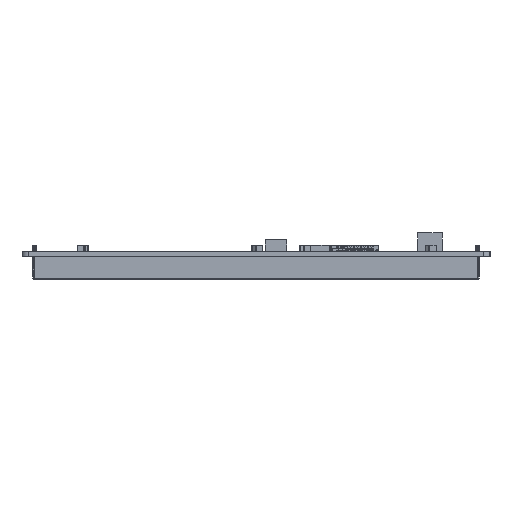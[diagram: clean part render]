
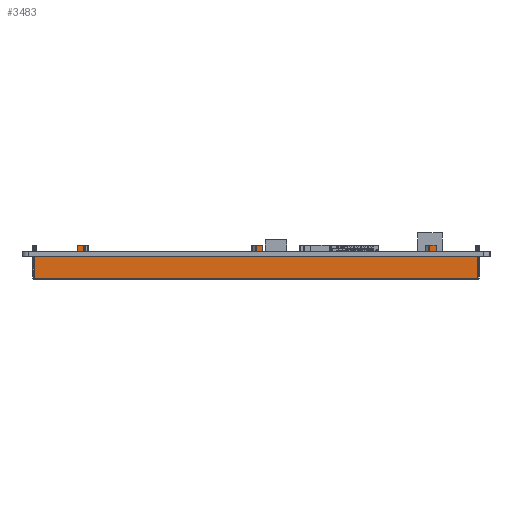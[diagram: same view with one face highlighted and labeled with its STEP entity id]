
A CAD part, left-side view. The second image highlights one B-rep face of the part: STEP entity #3483.
In plain terms, the highlighted planar face has unit normal (-1, 0, 0).
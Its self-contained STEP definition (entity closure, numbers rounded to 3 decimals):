
#3483=ADVANCED_FACE('',(#5807),#4556,.F.);
#4556=PLANE('',#29141);
#5807=FACE_OUTER_BOUND('',#7209,.T.);
#7209=EDGE_LOOP('',(#13688,#13689,#13690,#13691,#13692,#13693,#13694,#13695,
#13696,#13697,#13698,#13699,#13700,#13701,#13702,#13703,#13704,#13705,#13706,
#13707,#13708,#13709));
#13688=ORIENTED_EDGE('',*,*,#20617,.F.);
#13689=ORIENTED_EDGE('',*,*,#20618,.T.);
#13690=ORIENTED_EDGE('',*,*,#20619,.T.);
#13691=ORIENTED_EDGE('',*,*,#20614,.T.);
#13692=ORIENTED_EDGE('',*,*,#20620,.F.);
#13693=ORIENTED_EDGE('',*,*,#20621,.F.);
#13694=ORIENTED_EDGE('',*,*,#20622,.T.);
#13695=ORIENTED_EDGE('',*,*,#20623,.T.);
#13696=ORIENTED_EDGE('',*,*,#20624,.T.);
#13697=ORIENTED_EDGE('',*,*,#20610,.T.);
#13698=ORIENTED_EDGE('',*,*,#20625,.F.);
#13699=ORIENTED_EDGE('',*,*,#20626,.F.);
#13700=ORIENTED_EDGE('',*,*,#20627,.T.);
#13701=ORIENTED_EDGE('',*,*,#20628,.T.);
#13702=ORIENTED_EDGE('',*,*,#20629,.T.);
#13703=ORIENTED_EDGE('',*,*,#20606,.T.);
#13704=ORIENTED_EDGE('',*,*,#20630,.F.);
#13705=ORIENTED_EDGE('',*,*,#20631,.T.);
#13706=ORIENTED_EDGE('',*,*,#20632,.F.);
#13707=ORIENTED_EDGE('',*,*,#20633,.F.);
#13708=ORIENTED_EDGE('',*,*,#20634,.T.);
#13709=ORIENTED_EDGE('',*,*,#20604,.T.);
#17046=VERTEX_POINT('',#42819);
#17048=VERTEX_POINT('',#42823);
#17049=VERTEX_POINT('',#42827);
#17051=VERTEX_POINT('',#42830);
#17053=VERTEX_POINT('',#42836);
#17055=VERTEX_POINT('',#42839);
#17057=VERTEX_POINT('',#42845);
#17059=VERTEX_POINT('',#42848);
#17061=VERTEX_POINT('',#42854);
#17062=VERTEX_POINT('',#42856);
#17063=VERTEX_POINT('',#42859);
#17064=VERTEX_POINT('',#42861);
#17065=VERTEX_POINT('',#42863);
#17066=VERTEX_POINT('',#42865);
#17067=VERTEX_POINT('',#42868);
#17068=VERTEX_POINT('',#42870);
#17069=VERTEX_POINT('',#42872);
#17070=VERTEX_POINT('',#42874);
#17071=VERTEX_POINT('',#42877);
#17072=VERTEX_POINT('',#42879);
#17073=VERTEX_POINT('',#42881);
#17074=VERTEX_POINT('',#42883);
#20604=EDGE_CURVE('',#17046,#17048,#23874,.T.);
#20606=EDGE_CURVE('',#17051,#17049,#23876,.T.);
#20610=EDGE_CURVE('',#17055,#17053,#23880,.T.);
#20614=EDGE_CURVE('',#17059,#17057,#23884,.T.);
#20617=EDGE_CURVE('',#17061,#17048,#23887,.T.);
#20618=EDGE_CURVE('',#17061,#17062,#23888,.T.);
#20619=EDGE_CURVE('',#17062,#17059,#23889,.T.);
#20620=EDGE_CURVE('',#17063,#17057,#23890,.T.);
#20621=EDGE_CURVE('',#17064,#17063,#23891,.T.);
#20622=EDGE_CURVE('',#17064,#17065,#23892,.T.);
#20623=EDGE_CURVE('',#17065,#17066,#23893,.T.);
#20624=EDGE_CURVE('',#17066,#17055,#23894,.T.);
#20625=EDGE_CURVE('',#17067,#17053,#23895,.T.);
#20626=EDGE_CURVE('',#17068,#17067,#23896,.T.);
#20627=EDGE_CURVE('',#17068,#17069,#23897,.T.);
#20628=EDGE_CURVE('',#17069,#17070,#23898,.T.);
#20629=EDGE_CURVE('',#17070,#17051,#23899,.T.);
#20630=EDGE_CURVE('',#17071,#17049,#23900,.T.);
#20631=EDGE_CURVE('',#17071,#17072,#23901,.T.);
#20632=EDGE_CURVE('',#17073,#17072,#23902,.T.);
#20633=EDGE_CURVE('',#17074,#17073,#23903,.T.);
#20634=EDGE_CURVE('',#17074,#17046,#23904,.T.);
#23874=LINE('',#42824,#27004);
#23876=LINE('',#42829,#27006);
#23880=LINE('',#42838,#27010);
#23884=LINE('',#42847,#27014);
#23887=LINE('',#42853,#27017);
#23888=LINE('',#42855,#27018);
#23889=LINE('',#42857,#27019);
#23890=LINE('',#42858,#27020);
#23891=LINE('',#42860,#27021);
#23892=LINE('',#42862,#27022);
#23893=LINE('',#42864,#27023);
#23894=LINE('',#42866,#27024);
#23895=LINE('',#42867,#27025);
#23896=LINE('',#42869,#27026);
#23897=LINE('',#42871,#27027);
#23898=LINE('',#42873,#27028);
#23899=LINE('',#42875,#27029);
#23900=LINE('',#42876,#27030);
#23901=LINE('',#42878,#27031);
#23902=LINE('',#42880,#27032);
#23903=LINE('',#42882,#27033);
#23904=LINE('',#42884,#27034);
#27004=VECTOR('',#35304,1.);
#27006=VECTOR('',#35308,1.);
#27010=VECTOR('',#35314,1.);
#27014=VECTOR('',#35320,1.);
#27017=VECTOR('',#35325,1.);
#27018=VECTOR('',#35326,1.);
#27019=VECTOR('',#35327,1.);
#27020=VECTOR('',#35328,1.);
#27021=VECTOR('',#35329,1.);
#27022=VECTOR('',#35330,1.);
#27023=VECTOR('',#35331,1.);
#27024=VECTOR('',#35332,1.);
#27025=VECTOR('',#35333,1.);
#27026=VECTOR('',#35334,1.);
#27027=VECTOR('',#35335,1.);
#27028=VECTOR('',#35336,1.);
#27029=VECTOR('',#35337,1.);
#27030=VECTOR('',#35338,1.);
#27031=VECTOR('',#35339,1.);
#27032=VECTOR('',#35340,1.);
#27033=VECTOR('',#35341,1.);
#27034=VECTOR('',#35342,1.);
#29141=AXIS2_PLACEMENT_3D('',#42885,#35343,#35344);
#35304=DIRECTION('',(0.,1.,0.));
#35308=DIRECTION('',(0.,1.,0.));
#35314=DIRECTION('',(0.,1.,0.));
#35320=DIRECTION('',(0.,1.,0.));
#35325=DIRECTION('',(0.,0.,1.));
#35326=DIRECTION('',(0.,-1.,0.));
#35327=DIRECTION('',(0.,0.,1.));
#35328=DIRECTION('',(0.,0.,-1.));
#35329=DIRECTION('',(0.,-1.,0.));
#35330=DIRECTION('',(0.,0.,-1.));
#35331=DIRECTION('',(0.,-1.,0.));
#35332=DIRECTION('',(0.,0.,-1.));
#35333=DIRECTION('',(0.,0.,-1.));
#35334=DIRECTION('',(0.,-1.,0.));
#35335=DIRECTION('',(0.,0.,-1.));
#35336=DIRECTION('',(0.,-1.,0.));
#35337=DIRECTION('',(0.,0.,-1.));
#35338=DIRECTION('',(0.,0.,-1.));
#35339=DIRECTION('',(0.,-1.,0.));
#35340=DIRECTION('',(0.,0.,-1.));
#35341=DIRECTION('',(0.,-1.,0.));
#35342=DIRECTION('',(0.,0.,-1.));
#35343=DIRECTION('',(1.,0.,0.));
#35344=DIRECTION('',(0.,-1.,0.));
#42819=CARTESIAN_POINT('',(-84.85,60.795,-1.6));
#42823=CARTESIAN_POINT('',(-84.85,74.48,-1.6));
#42824=CARTESIAN_POINT('',(-84.85,-66.52,-1.6));
#42827=CARTESIAN_POINT('',(-84.85,58.795,-1.6));
#42829=CARTESIAN_POINT('',(-84.85,-66.52,-1.6));
#42830=CARTESIAN_POINT('',(-84.85,3.795,-1.6));
#42836=CARTESIAN_POINT('',(-84.85,1.795,-1.6));
#42838=CARTESIAN_POINT('',(-84.85,-66.52,-1.6));
#42839=CARTESIAN_POINT('',(-84.85,-51.325,-1.6));
#42845=CARTESIAN_POINT('',(-84.85,-53.325,-1.6));
#42847=CARTESIAN_POINT('',(-84.85,-66.52,-1.6));
#42848=CARTESIAN_POINT('',(-84.85,-66.52,-1.6));
#42853=CARTESIAN_POINT('',(-84.85,74.48,-8.8));
#42854=CARTESIAN_POINT('',(-84.85,74.48,-8.4));
#42855=CARTESIAN_POINT('',(-84.85,-66.52,-8.4));
#42856=CARTESIAN_POINT('',(-84.85,-66.52,-8.4));
#42857=CARTESIAN_POINT('',(-84.85,-66.52,-8.8));
#42858=CARTESIAN_POINT('',(-84.85,-53.325,2.));
#42859=CARTESIAN_POINT('',(-84.85,-53.325,2.));
#42860=CARTESIAN_POINT('',(-84.85,-51.243,2.));
#42861=CARTESIAN_POINT('',(-84.85,-51.243,2.));
#42862=CARTESIAN_POINT('',(-84.85,-51.243,2.));
#42863=CARTESIAN_POINT('',(-84.85,-51.243,0.));
#42864=CARTESIAN_POINT('',(-84.85,-51.243,0.));
#42865=CARTESIAN_POINT('',(-84.85,-51.325,0.));
#42866=CARTESIAN_POINT('',(-84.85,-51.325,0.));
#42867=CARTESIAN_POINT('',(-84.85,1.795,2.));
#42868=CARTESIAN_POINT('',(-84.85,1.795,2.));
#42869=CARTESIAN_POINT('',(-84.85,3.877,2.));
#42870=CARTESIAN_POINT('',(-84.85,3.877,2.));
#42871=CARTESIAN_POINT('',(-84.85,3.877,2.));
#42872=CARTESIAN_POINT('',(-84.85,3.877,0.));
#42873=CARTESIAN_POINT('',(-84.85,3.877,0.));
#42874=CARTESIAN_POINT('',(-84.85,3.795,0.));
#42875=CARTESIAN_POINT('',(-84.85,3.795,0.));
#42876=CARTESIAN_POINT('',(-84.85,58.795,0.));
#42877=CARTESIAN_POINT('',(-84.85,58.795,0.));
#42878=CARTESIAN_POINT('',(-84.85,60.795,0.));
#42879=CARTESIAN_POINT('',(-84.85,58.713,0.));
#42880=CARTESIAN_POINT('',(-84.85,58.713,2.));
#42881=CARTESIAN_POINT('',(-84.85,58.713,2.));
#42882=CARTESIAN_POINT('',(-84.85,60.795,2.));
#42883=CARTESIAN_POINT('',(-84.85,60.795,2.));
#42884=CARTESIAN_POINT('',(-84.85,60.795,2.));
#42885=CARTESIAN_POINT('',(-84.85,-66.52,-8.8));
